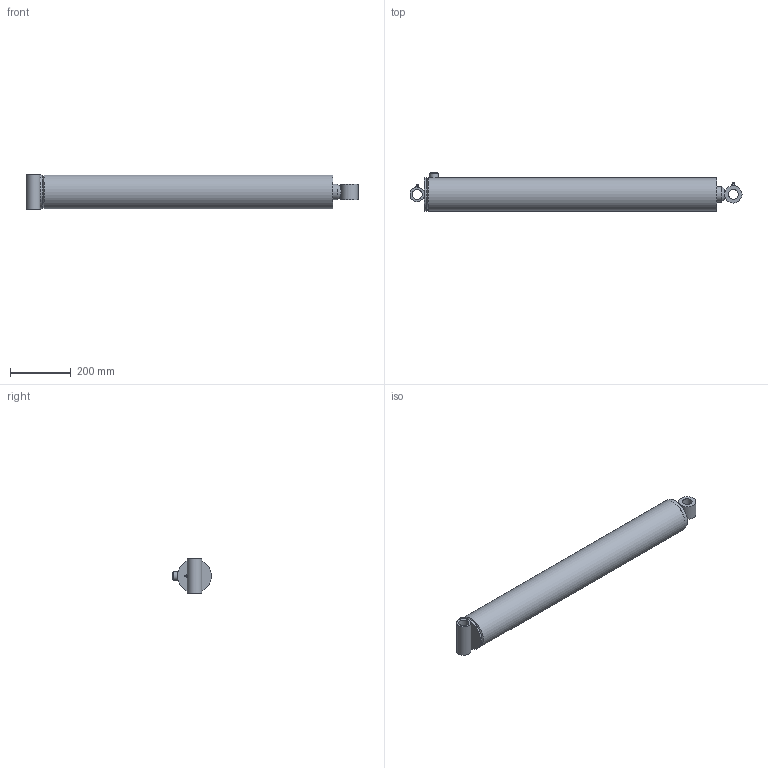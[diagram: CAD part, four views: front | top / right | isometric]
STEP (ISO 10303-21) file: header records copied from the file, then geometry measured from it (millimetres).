
FILE_DESCRIPTION((''),'2;1');
FILE_NAME('\\SRVR-ENG\EngSales\PMC-5632.stp','2012-11-09T15:29:10',('KneiflD'),(''),'Autodesk Inventor 2012','Autodesk Inventor 2012','');
FILE_SCHEMA(('AUTOMOTIVE_DESIGN { 1 0 10303 214 1 1 1 1 }'));
Length unit declared in the file: inch
Products named in the file (23): PMC-5632; 061900041; 051900063; 161900081V; 200014404V; 210600086V; 021100305; 011100875; 210600347V; 071900019; 081900451V; 220000212; 240004008V; 240034342V; 240000342V; 240000026V; 240061342V; 240020009V; 230001400V; 200018003V; 270010002V; 270010020V; 250001329V
Assembly tree (25 placements, depth 3):
  PMC-5632
    061900041
      051900063
      161900081V
      200014404V
      210600086V
    021100305
      011100875
      210600347V
    071900019
    081900451V
    220000212
    240004008V
    240034342V  x2
    240000342V  x2
    240000026V
    240061342V
    240020009V
    230001400V
    200018003V  x2
    270010002V
    270010020V
    250001329V
Bounding box: 1093.77 x 127 x 114.3 mm (x, y, z)
Volume: 4403970.7 mm3; surface area: 1016430.9 mm2
Topology: 23 solids, 23 shells, 258 faces, 529 edges, 321 vertices
Faces by surface type: plane 114, cylinder 65, cone 39, torus 35, bspline 3, sphere 2
Full cylindrical faces by diameter (mm): 1.524 x2, 3.175 x2, 6.074 x1, 8.839 x2, 9.08 x1, 12.7 x1, 17.463 x1, 17.475 x1, 23.813 x1, 28.575 x1, 29.464 x1, 31.699 x1, 31.826 x1, 32.258 x1, 32.385 x1, 34.315 x1, 47.625 x1, 50.8 x2, 50.876 x2, 51.752 x1, 54.61 x1, 57.15 x1, 58.725 x2, 59.373 x1, 60.325 x1, 60.452 x1, 63.5 x1, 80.95 x1, 91.592 x1, 92.151 x1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
Entity records: 6719 total; most frequent: CARTESIAN_POINT 1546, DIRECTION 1047, ORIENTED_EDGE 684, AXIS2_PLACEMENT_3D 478, EDGE_LOOP 408, EDGE_CURVE 342, VERTEX_POINT 276, FACE_OUTER_BOUND 236
